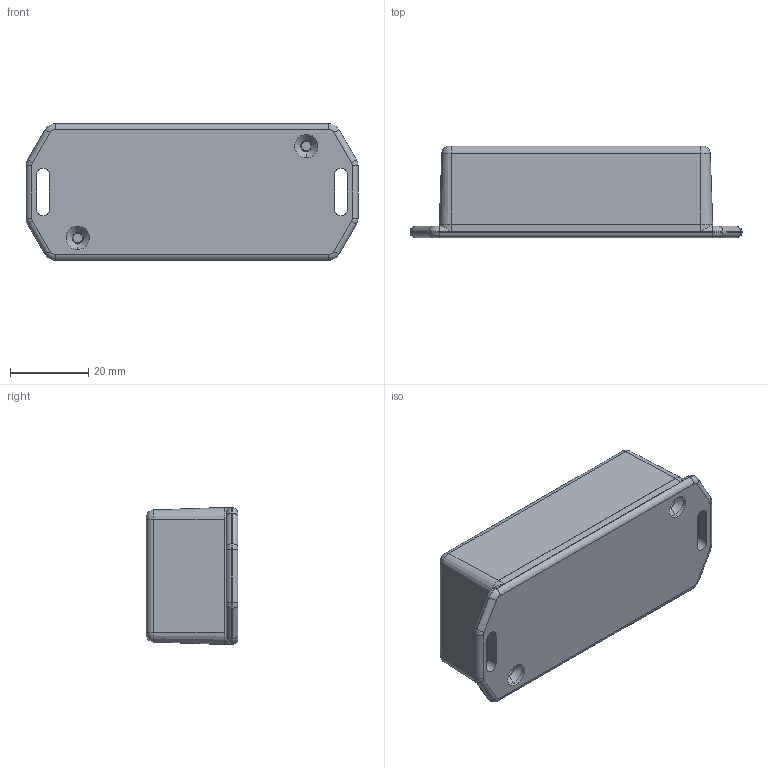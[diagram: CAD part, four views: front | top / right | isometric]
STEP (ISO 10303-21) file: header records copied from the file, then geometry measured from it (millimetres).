
FILE_DESCRIPTION (( 'STEP AP203' ), '1' );
FILE_NAME ('PM009.STEP', '2016-05-09T11:25:07', ( '' ), ( '' ), 'SwSTEP 2.0', 'SolidWorks 2014', '' );
FILE_SCHEMA (( 'CONFIG_CONTROL_DESIGN' ));
Length unit declared in the file: millimetre
Products named in the file (3): PM009
Assembly tree (2 placements, depth 2):
  PM009
    PM009
    PM009
Bounding box: 85 x 23.5 x 35.1 mm (x, y, z)
Volume: 19307.8 mm3; surface area: 20615.7 mm2
Topology: 2 solids, 2 shells, 203 faces, 484 edges, 300 vertices
Faces by surface type: plane 83, cylinder 64, cone 32, torus 20, bspline 4
Entity records: 6520 total; most frequent: CARTESIAN_POINT 1413, DIRECTION 1060, ORIENTED_EDGE 968, EDGE_CURVE 484, AXIS2_PLACEMENT_3D 396, VERTEX_POINT 300, LINE 268, VECTOR 268
